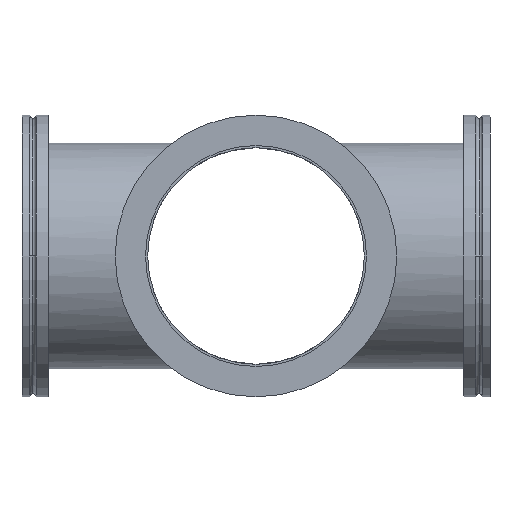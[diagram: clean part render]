
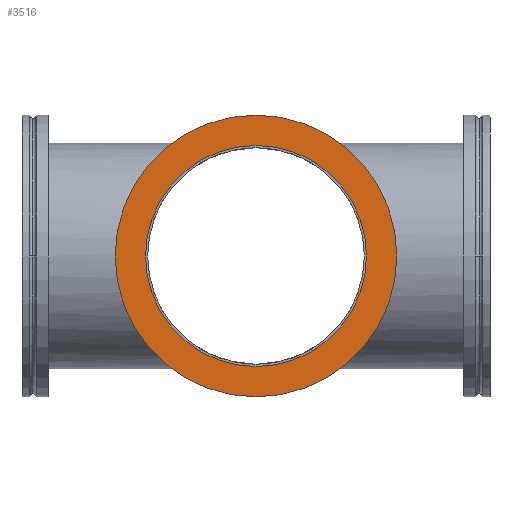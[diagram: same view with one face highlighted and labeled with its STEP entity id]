
A CAD part, left-side view. The second image highlights one B-rep face of the part: STEP entity #3516.
In plain terms, the highlighted planar face has unit normal (-1, 0, 0).
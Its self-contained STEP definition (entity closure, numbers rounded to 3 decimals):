
#2530=CARTESIAN_POINT('',(-66.233,268.2,0.567));
#2531=VERTEX_POINT('',#2530);
#2547=CARTESIAN_POINT('',(-66.233,268.2,-101.433));
#2548=VERTEX_POINT('',#2547);
#2555=CARTESIAN_POINT('',(-66.233,268.2,-50.433));
#2556=DIRECTION('',(-1.0,0.0,0.0));
#2557=DIRECTION('',(0.0,0.0,1.0));
#2558=AXIS2_PLACEMENT_3D('',#2555,#2556,#2557);
#2559=CIRCLE('',#2558,51.);
#2560=EDGE_CURVE('',#2548,#2531,#2559,.T.);
#2572=CARTESIAN_POINT('',(-66.233,268.2,14.567));
#2573=VERTEX_POINT('',#2572);
#2598=CARTESIAN_POINT('',(-66.233,268.2,-115.433));
#2599=VERTEX_POINT('',#2598);
#2606=CARTESIAN_POINT('',(-66.233,268.2,-50.433));
#2607=DIRECTION('',(-1.0,0.0,0.0));
#2608=DIRECTION('',(0.0,0.0,1.0));
#2609=AXIS2_PLACEMENT_3D('',#2606,#2607,#2608);
#2610=CIRCLE('',#2609,65.0);
#2611=EDGE_CURVE('',#2573,#2599,#2610,.T.);
#3484=CARTESIAN_POINT('',(-66.233,268.2,-50.433));
#3485=DIRECTION('',(-1.0,0.0,0.0));
#3486=DIRECTION('',(0.0,0.0,1.0));
#3487=AXIS2_PLACEMENT_3D('',#3484,#3485,#3486);
#3488=CIRCLE('',#3487,65.0);
#3489=EDGE_CURVE('',#2599,#2573,#3488,.T.);
#3497=CARTESIAN_POINT('',(-66.233,268.2,7.567));
#3498=DIRECTION('',(-1.0,0.0,0.0));
#3499=DIRECTION('',(0.0,-1.0,0.0));
#3500=AXIS2_PLACEMENT_3D('',#3497,#3498,#3499);
#3501=PLANE('',#3500);
#3502=ORIENTED_EDGE('',*,*,#2611,.T.);
#3503=ORIENTED_EDGE('',*,*,#3489,.T.);
#3504=EDGE_LOOP('',(#3502,#3503));
#3505=FACE_OUTER_BOUND('',#3504,.T.);
#3506=CARTESIAN_POINT('',(-66.233,268.2,-50.433));
#3507=DIRECTION('',(-1.0,0.0,0.0));
#3508=DIRECTION('',(0.0,0.0,1.0));
#3509=AXIS2_PLACEMENT_3D('',#3506,#3507,#3508);
#3510=CIRCLE('',#3509,51.);
#3511=EDGE_CURVE('',#2531,#2548,#3510,.T.);
#3512=ORIENTED_EDGE('',*,*,#3511,.F.);
#3513=ORIENTED_EDGE('',*,*,#2560,.F.);
#3514=EDGE_LOOP('',(#3512,#3513));
#3515=FACE_BOUND('',#3514,.T.);
#3516=ADVANCED_FACE('',(#3505,#3515),#3501,.T.);
